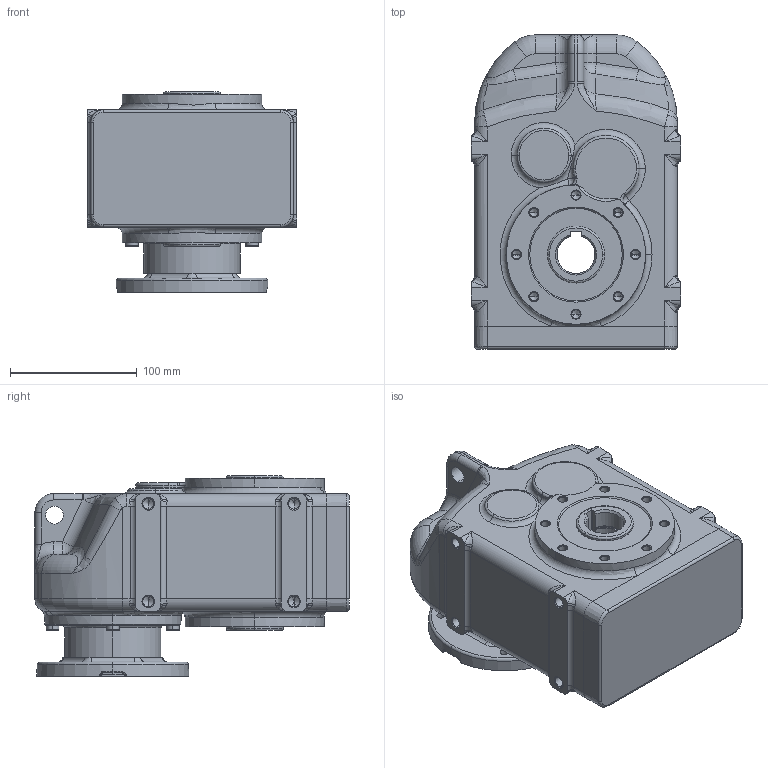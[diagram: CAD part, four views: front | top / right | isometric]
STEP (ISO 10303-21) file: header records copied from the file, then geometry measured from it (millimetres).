
FILE_DESCRIPTION (( 'STEP AP214' ), '1' );
FILE_NAME ('tnc13-f100-ap80.STEP', '2009-09-25T08:17:56', ( '' ), ( '' ), 'SwSTEP 2.0', 'SolidWorks 2003240', '' );
FILE_SCHEMA (( 'AUTOMOTIVE_DESIGN' ));
Length unit declared in the file: millimetre
Products named in the file (4): pøíruba d55 MRT60a_pøíruba 80-100-120; Skøíò TNC1_Skøíò TNC13 AP80; D6912_Šroub DIN 6912 - M6x20; tnc13-f100-ap80
Assembly tree (8 placements, depth 2):
  tnc13-f100-ap80
    D6912_Šroub DIN 6912 - M6x20  x6
    pøíruba d55 MRT60a_pøíruba 80-100-120
    Skøíò TNC1_Skøíò TNC13 AP80
Bounding box: 165 x 248 x 158 mm (x, y, z)
Volume: 3719834.4 mm3; surface area: 222478.1 mm2
Topology: 8 solids, 8 shells, 1139 faces, 2645 edges, 1494 vertices
Faces by surface type: cylinder 289, torus 289, cone 258, plane 188, bspline 110, sphere 5
Entity records: 113102 total; most frequent: CARTESIAN_POINT 90370, DIRECTION 4943, ORIENTED_EDGE 4462, EDGE_CURVE 2231, AXIS2_PLACEMENT_3D 2173, VERTEX_POINT 1339, CIRCLE 1318, EDGE_LOOP 1036
